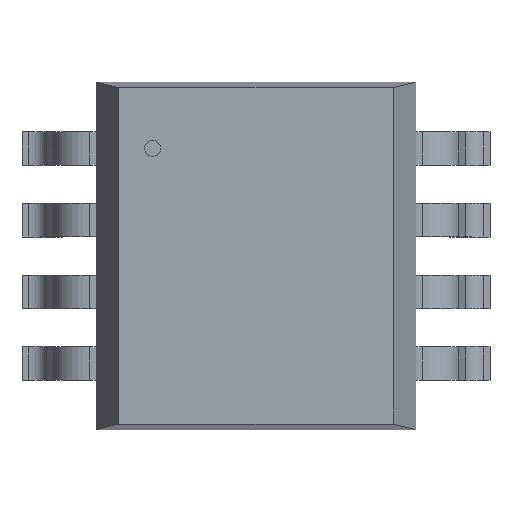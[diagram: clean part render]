
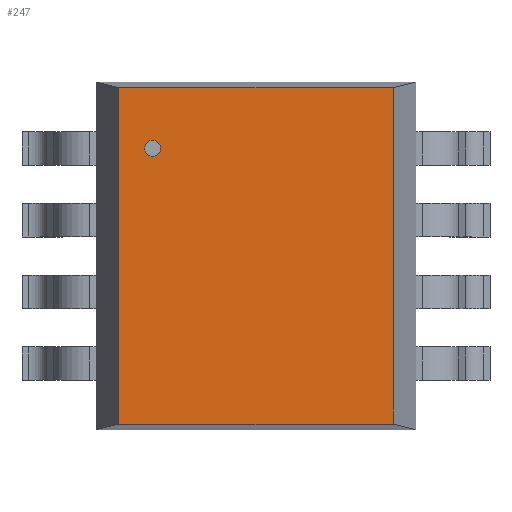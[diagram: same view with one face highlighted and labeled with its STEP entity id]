
A CAD part, top view. The second image highlights one B-rep face of the part: STEP entity #247.
In plain terms, the highlighted planar face has unit normal (0, 0, 1).
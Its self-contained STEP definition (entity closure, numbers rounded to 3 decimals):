
#247=ADVANCED_FACE('',(#253),#248,.T.);
#248=PLANE('',#249);
#249=AXIS2_PLACEMENT_3D('',#250,#251,#252);
#250=CARTESIAN_POINT('',(-1.245,-1.524,1.295));
#251=DIRECTION('',(0.0,0.0,1.0));
#252=DIRECTION('',(0.,1.,0.));
#253=FACE_OUTER_BOUND('',#254,.T.);
#254=EDGE_LOOP('',(#255,#265,#275,#285));
#258=CARTESIAN_POINT('',(1.245,-1.524,1.295));
#257=VERTEX_POINT('',#258);
#260=CARTESIAN_POINT('',(-1.245,-1.524,1.295));
#259=VERTEX_POINT('',#260);
#256=EDGE_CURVE('',#257,#259,#261,.T.);
#261=LINE('',#258,#263);
#263=VECTOR('',#264,2.489);
#264=DIRECTION('',(-1.0,0.0,0.0));
#255=ORIENTED_EDGE('',*,*,#256,.F.);
#268=CARTESIAN_POINT('',(1.245,1.524,1.295));
#267=VERTEX_POINT('',#268);
#266=EDGE_CURVE('',#267,#257,#271,.T.);
#271=LINE('',#268,#273);
#273=VECTOR('',#274,3.048);
#274=DIRECTION('',(0.0,-1.0,0.0));
#265=ORIENTED_EDGE('',*,*,#266,.F.);
#278=CARTESIAN_POINT('',(-1.245,1.524,1.295));
#277=VERTEX_POINT('',#278);
#276=EDGE_CURVE('',#277,#267,#281,.T.);
#281=LINE('',#278,#283);
#283=VECTOR('',#284,2.489);
#284=DIRECTION('',(1.0,0.0,0.0));
#275=ORIENTED_EDGE('',*,*,#276,.F.);
#286=EDGE_CURVE('',#259,#277,#291,.T.);
#291=LINE('',#260,#293);
#293=VECTOR('',#294,3.048);
#294=DIRECTION('',(0.0,1.0,0.0));
#285=ORIENTED_EDGE('',*,*,#286,.F.);
